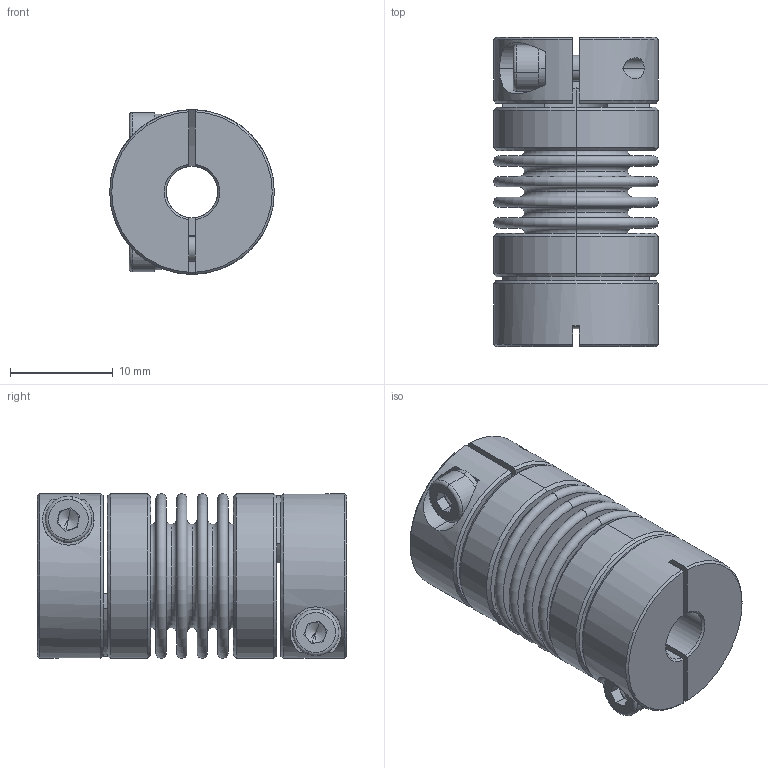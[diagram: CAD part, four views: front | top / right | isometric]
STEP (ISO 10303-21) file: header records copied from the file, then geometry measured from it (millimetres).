
FILE_DESCRIPTION (( 'STEP AP203' ), '1' );
FILE_NAME ('LB-B-D16L30-5-7.STEP', '2021-11-04T01:13:47', ( '' ), ( '' ), 'SwSTEP 2.0', 'SolidWorks 2018', '' );
FILE_SCHEMA (( 'CONFIG_CONTROL_DESIGN' ));
Length unit declared in the file: millimetre
Products named in the file (2): LB-B-D16L30-5-7; 零件1^LB-B-D16L30 波纹管联轴器-组装体
Assembly tree (1 placements, depth 2):
  LB-B-D16L30-5-7
    零件1^LB-B-D16L30 波纹管联轴器-组装体
Bounding box: 16 x 30.04 x 16 mm (x, y, z)
Volume: 3112.9 mm3; surface area: 6438.9 mm2
Topology: 1 solids, 1 shells, 254 faces, 586 edges, 362 vertices
Faces by surface type: plane 86, torus 68, cylinder 66, cone 34
Entity records: 7660 total; most frequent: CARTESIAN_POINT 1472, DIRECTION 1420, ORIENTED_EDGE 1164, AXIS2_PLACEMENT_3D 622, EDGE_CURVE 582, CIRCLE 364, VERTEX_POINT 362, EDGE_LOOP 296
